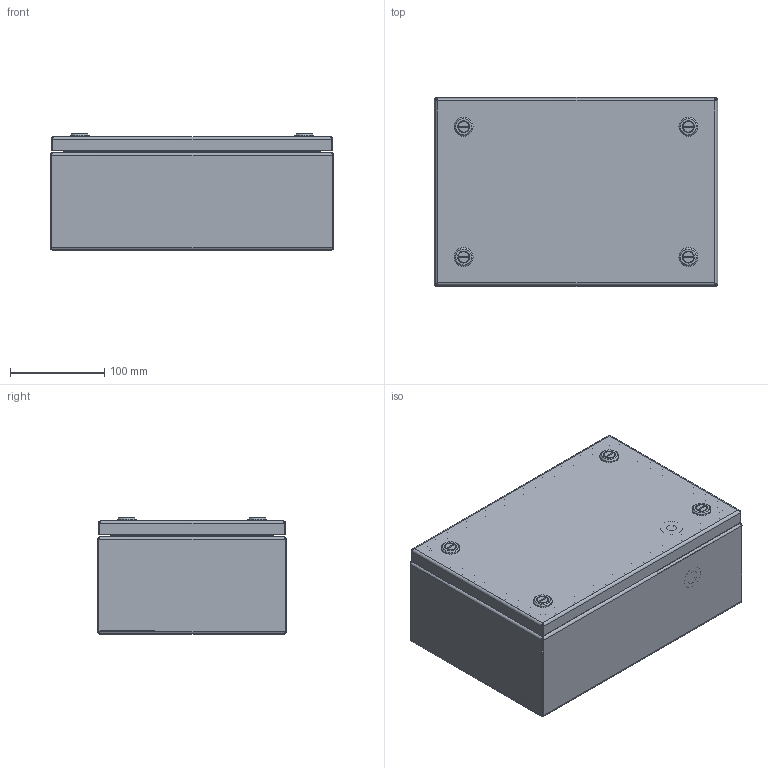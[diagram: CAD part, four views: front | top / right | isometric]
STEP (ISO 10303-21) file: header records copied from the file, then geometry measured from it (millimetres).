
FILE_DESCRIPTION (( 'STEP AP214' ), '1' );
FILE_NAME ('BSS 20.30.12 Êîðîáêà.STEP', '2023-03-14T05:51:37', ( '' ), ( '' ), 'SwSTEP 2.0', 'SolidWorks 2019', '' );
FILE_SCHEMA (( 'AUTOMOTIVE_DESIGN' ));
Length unit declared in the file: millimetre
Products named in the file (1): BSS 20.30.12 Êîðîáêà
Bounding box: 300 x 200 x 123 mm (x, y, z)
Volume: 455418.8 mm3; surface area: 682115 mm2
Topology: 36 solids, 36 shells, 1971 faces, 4908 edges, 3077 vertices
Faces by surface type: plane 1139, cylinder 544, cone 120, bspline 108, torus 44, sphere 16
Entity records: 94499 total; most frequent: CARTESIAN_POINT 26712, ORIENTED_EDGE 9784, DIRECTION 8948, EDGE_CURVE 4892, LINE 3084, VECTOR 3084, VERTEX_POINT 3077, AXIS2_PLACEMENT_3D 2932
